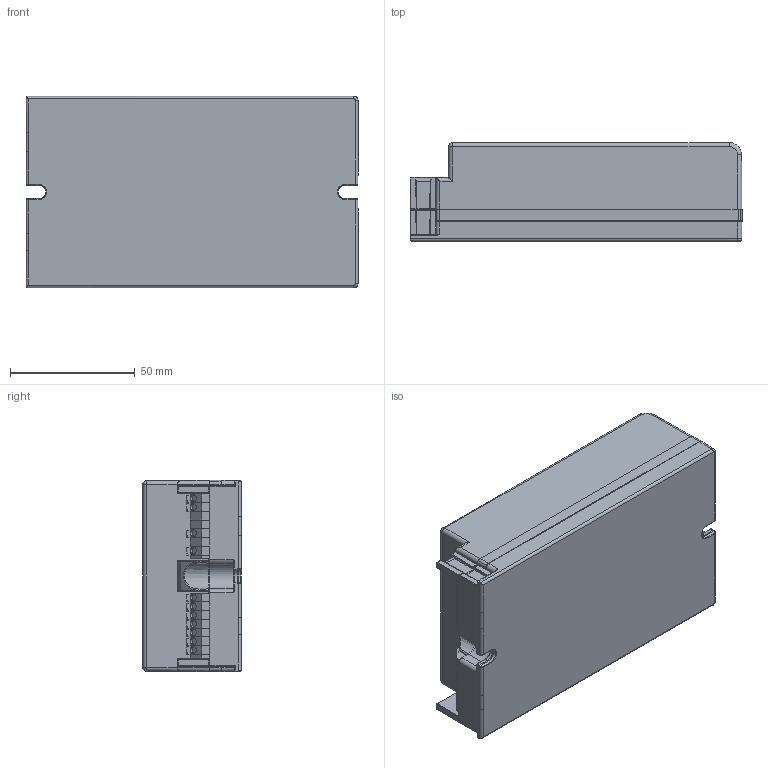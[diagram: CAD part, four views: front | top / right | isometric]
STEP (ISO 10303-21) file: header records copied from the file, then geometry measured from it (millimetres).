
FILE_DESCRIPTION (( 'STEP AP214' ), '1' );
FILE_NAME ('4186641swm000.step', '2020-01-31T05:36:34', ( 'OSRAM' ), ( 'OSRAM' ), 'SwSTEP 2.0', 'SolidWorks 2017', '' );
FILE_SCHEMA (( 'AUTOMOTIVE_DESIGN' ));
Length unit declared in the file: millimetre
Products named in the file (1): 4186641swm000
Bounding box: 133 x 39.5 x 76.7 mm (x, y, z)
Volume: 370242.9 mm3; surface area: 39868.8 mm2
Topology: 1 solids, 1 shells, 968 faces, 2371 edges, 1360 vertices
Faces by surface type: plane 540, cylinder 237, bspline 99, cone 40, sphere 32, torus 20
Entity records: 39177 total; most frequent: CARTESIAN_POINT 7291, ORIENTED_EDGE 4674, DIRECTION 4163, EDGE_CURVE 2337, LINE 1601, VECTOR 1601, VERTEX_POINT 1360, AXIS2_PLACEMENT_3D 1281
